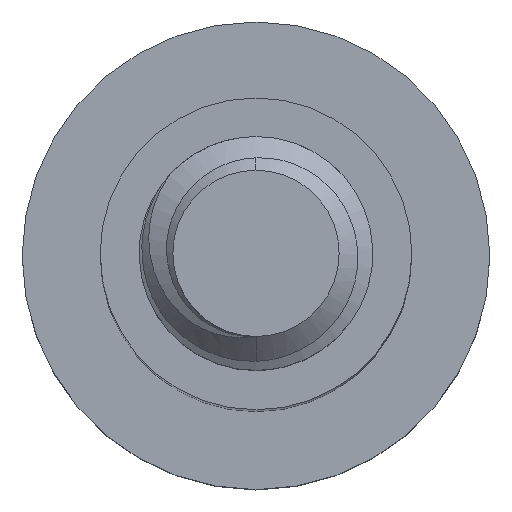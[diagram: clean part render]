
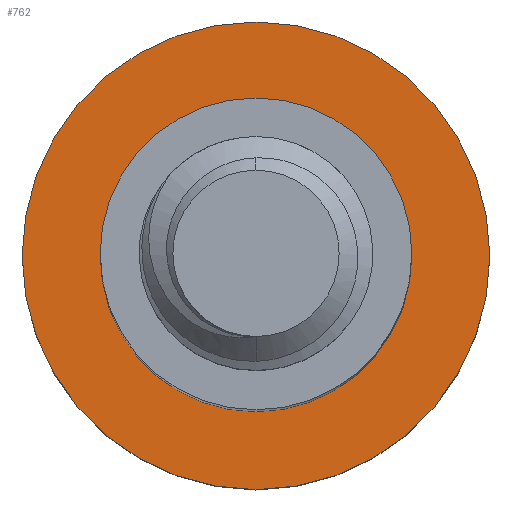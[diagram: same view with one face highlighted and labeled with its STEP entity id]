
A CAD part, top view. The second image highlights one B-rep face of the part: STEP entity #762.
In plain terms, the highlighted planar face has unit normal (0, 0, 1).
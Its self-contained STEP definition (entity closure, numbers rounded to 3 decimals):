
#59 = AXIS2_PLACEMENT_3D ( 'NONE', #1298, #2120, #1985 ) ;
#89 = EDGE_CURVE ( 'NONE', #1245, #1806, #2128, .T. ) ;
#142 = DIRECTION ( 'NONE',  ( 0., 0., -1. ) ) ;
#242 = DIRECTION ( 'NONE',  ( -1., 0., 0. ) ) ;
#285 = AXIS2_PLACEMENT_3D ( 'NONE', #2043, #455, #2174 ) ;
#350 = ORIENTED_EDGE ( 'NONE', *, *, #1363, .T. ) ;
#415 = CARTESIAN_POINT ( 'NONE',  ( 2., 0., -14. ) ) ;
#455 = DIRECTION ( 'NONE',  ( 0., 0., -1. ) ) ;
#468 = DIRECTION ( 'NONE',  ( 0., 0., -1. ) ) ;
#479 = ORIENTED_EDGE ( 'NONE', *, *, #89, .F. ) ;
#485 = PLANE ( 'NONE',  #285 ) ;
#498 = VERTEX_POINT ( 'NONE', #415 ) ;
#502 = FACE_BOUND ( 'NONE', #1827, .T. ) ;
#530 = EDGE_LOOP ( 'NONE', ( #1676, #479 ) ) ;
#595 = CARTESIAN_POINT ( 'NONE',  ( -2., 0., -14. ) ) ;
#633 = CARTESIAN_POINT ( 'NONE',  ( 0., 0., -14. ) ) ;
#762 = ADVANCED_FACE ( 'NONE', ( #502, #1012 ), #485, .F. ) ;
#769 = EDGE_CURVE ( 'NONE', #1806, #1245, #1092, .T. ) ;
#808 = AXIS2_PLACEMENT_3D ( 'NONE', #844, #468, #1846 ) ;
#844 = CARTESIAN_POINT ( 'NONE',  ( 0., 0., -14. ) ) ;
#909 = AXIS2_PLACEMENT_3D ( 'NONE', #1733, #142, #1186 ) ;
#1012 = FACE_OUTER_BOUND ( 'NONE', #530, .T. ) ;
#1092 = CIRCLE ( 'NONE', #808, 3. ) ;
#1117 = CARTESIAN_POINT ( 'NONE',  ( 3., 0., -14. ) ) ;
#1128 = CIRCLE ( 'NONE', #909, 2. ) ;
#1163 = DIRECTION ( 'NONE',  ( 0., 0., -1. ) ) ;
#1186 = DIRECTION ( 'NONE',  ( -1., 0., 0. ) ) ;
#1245 = VERTEX_POINT ( 'NONE', #2031 ) ;
#1298 = CARTESIAN_POINT ( 'NONE',  ( 0., 0., -14. ) ) ;
#1363 = EDGE_CURVE ( 'NONE', #1638, #498, #1128, .T. ) ;
#1605 = ORIENTED_EDGE ( 'NONE', *, *, #1749, .T. ) ;
#1638 = VERTEX_POINT ( 'NONE', #595 ) ;
#1676 = ORIENTED_EDGE ( 'NONE', *, *, #769, .F. ) ;
#1733 = CARTESIAN_POINT ( 'NONE',  ( 0., 0., -14. ) ) ;
#1749 = EDGE_CURVE ( 'NONE', #498, #1638, #2135, .T. ) ;
#1806 = VERTEX_POINT ( 'NONE', #1117 ) ;
#1827 = EDGE_LOOP ( 'NONE', ( #350, #1605 ) ) ;
#1846 = DIRECTION ( 'NONE',  ( -1., 0., 0. ) ) ;
#1985 = DIRECTION ( 'NONE',  ( -1., 0., 0. ) ) ;
#1995 = AXIS2_PLACEMENT_3D ( 'NONE', #633, #1163, #242 ) ;
#2031 = CARTESIAN_POINT ( 'NONE',  ( -3., 0., -14. ) ) ;
#2043 = CARTESIAN_POINT ( 'NONE',  ( 0., 0., -14. ) ) ;
#2120 = DIRECTION ( 'NONE',  ( 0., 0., -1. ) ) ;
#2128 = CIRCLE ( 'NONE', #59, 3. ) ;
#2135 = CIRCLE ( 'NONE', #1995, 2. ) ;
#2174 = DIRECTION ( 'NONE',  ( -1., 0., 0. ) ) ;
